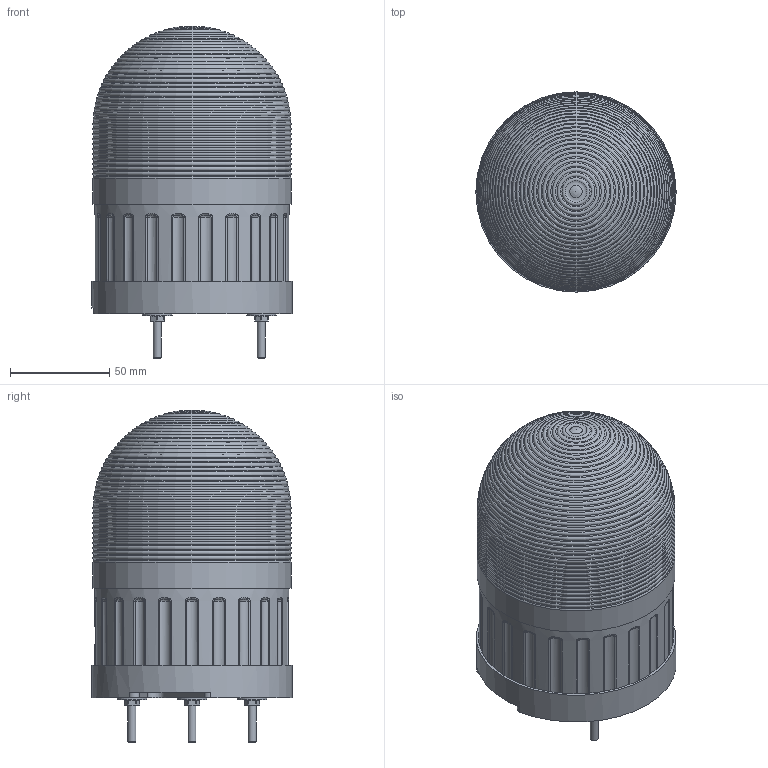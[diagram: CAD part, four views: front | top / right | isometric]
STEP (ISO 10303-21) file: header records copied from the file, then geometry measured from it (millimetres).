
FILE_DESCRIPTION(('STEP AP214'), '1');
FILE_NAME('Ñâåòîñèãíàëüíûé ìàÿ÷îê', '', ('UNSPECIFIED'), ('UNSPECIFIED'), 'C3D Converter', 'C3D Toolkit', '');
FILE_SCHEMA(('AUTOMOTIVE_DESIGN { 1 0 10303 214 3 1 1}'));
Length unit declared in the file: millimetre
Assembly tree (12 placements, depth 2):
  (unnamed)
    (unnamed)
    (unnamed)
    (unnamed)  x3
    (unnamed)  x3
    (unnamed)  x3
    (unnamed)
Bounding box: 101 x 101 x 167.5 mm (x, y, z)
Volume: 549455.7 mm3; surface area: 120408.3 mm2
Topology: 12 solids, 12 shells, 1244 faces, 3117 edges, 1740 vertices
Faces by surface type: cylinder 538, plane 266, torus 182, bspline 154, sphere 82, cone 22
Full cylindrical faces by diameter (mm): 3.242 x3, 4 x3, 5.4 x3, 9 x1, 12 x6, 13.5 x1, 15 x3, 93.5 x1, 94.2 x1, 98 x1, 98.4 x1, 100 x1, 101 x1
Entity records: 66396 total; most frequent: CARTESIAN_POINT 30967, DIRECTION 5371, ORIENTED_EDGE 5270, EDGE_CURVE 2635, AXIS2_PLACEMENT_3D 2194, VERTEX_POINT 1623, EDGE_LOOP 1291, CIRCLE 1175
